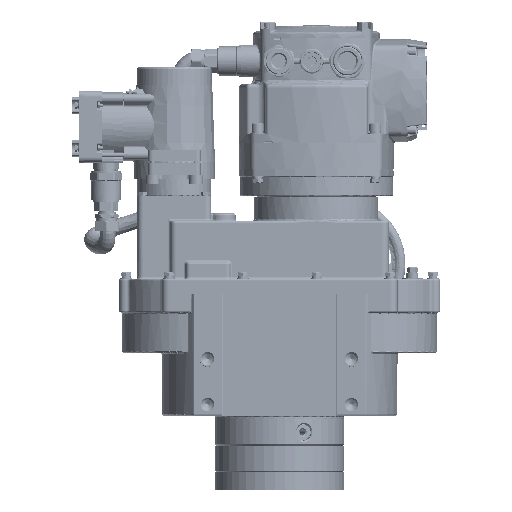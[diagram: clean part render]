
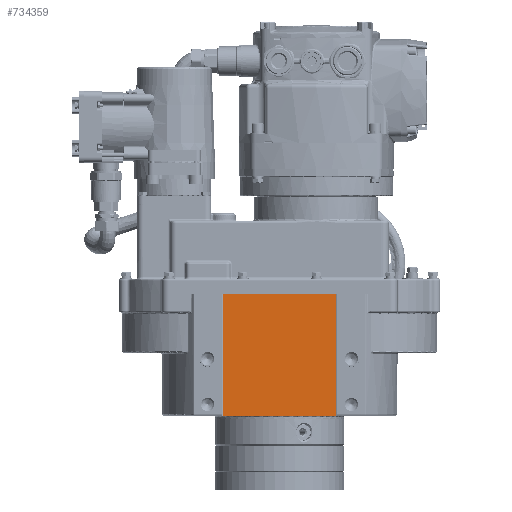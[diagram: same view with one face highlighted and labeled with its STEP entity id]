
A CAD part, front view. The second image highlights one B-rep face of the part: STEP entity #734359.
In plain terms, the highlighted planar face has unit normal (0, -1, 0).
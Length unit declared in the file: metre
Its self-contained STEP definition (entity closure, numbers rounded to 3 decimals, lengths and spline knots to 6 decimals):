
#733535=VERTEX_POINT('',#733536);
#733536=CARTESIAN_POINT('',(0.0765,-0.1065,-0.165));
#733543=EDGE_CURVE('',#733544,#733535,#733546,.T.);
#733544=VERTEX_POINT('',#733545);
#733545=CARTESIAN_POINT('',(-0.0765,-0.1065,-0.165));
#733546=LINE('',#733547,#733548);
#733547=CARTESIAN_POINT('',(-0.0785,-0.1065,-0.165));
#733548=VECTOR('',#733549,1.0);
#733549=DIRECTION('',(1.0,0.0,0.0));
#734359=ADVANCED_FACE('',(#734365),#734360,.T.);
#734360=PLANE('',#734361);
#734361=AXIS2_PLACEMENT_3D('',#734362,#734363,#734364);
#734362=CARTESIAN_POINT('',(-0.0785,-0.1065,-0.165));
#734363=DIRECTION('',(0.0,-1.0,0.));
#734364=DIRECTION('',(0.0,0.,-1.0));
#734365=FACE_OUTER_BOUND('',#734366,.T.);
#734366=EDGE_LOOP('',(#734367,#734377,#734383,#734384));
#734367=ORIENTED_EDGE('',*,*,#734368,.F.);
#734368=EDGE_CURVE('',#734369,#734371,#734373,.T.);
#734369=VERTEX_POINT('',#734370);
#734370=CARTESIAN_POINT('',(-0.0765,-0.1065,0.0));
#734371=VERTEX_POINT('',#734372);
#734372=CARTESIAN_POINT('',(0.0765,-0.1065,0.0));
#734373=LINE('',#734374,#734375);
#734374=CARTESIAN_POINT('',(-0.0785,-0.1065,0.0));
#734375=VECTOR('',#734376,1.0);
#734376=DIRECTION('',(1.0,0.0,0.0));
#734377=ORIENTED_EDGE('',*,*,#734378,.T.);
#734378=EDGE_CURVE('',#734369,#733544,#734379,.F.);
#734379=LINE('',#734380,#734381);
#734380=CARTESIAN_POINT('',(-0.0765,-0.1065,-0.165));
#734381=VECTOR('',#734382,1.0);
#734382=DIRECTION('',(0.0,0.,1.0));
#734383=ORIENTED_EDGE('',*,*,#733543,.T.);
#734384=ORIENTED_EDGE('',*,*,#734385,.T.);
#734385=EDGE_CURVE('',#733535,#734371,#734386,.T.);
#734386=LINE('',#734387,#734388);
#734387=CARTESIAN_POINT('',(0.0765,-0.1065,0.0));
#734388=VECTOR('',#734389,1.0);
#734389=DIRECTION('',(0.0,0.,1.0));
